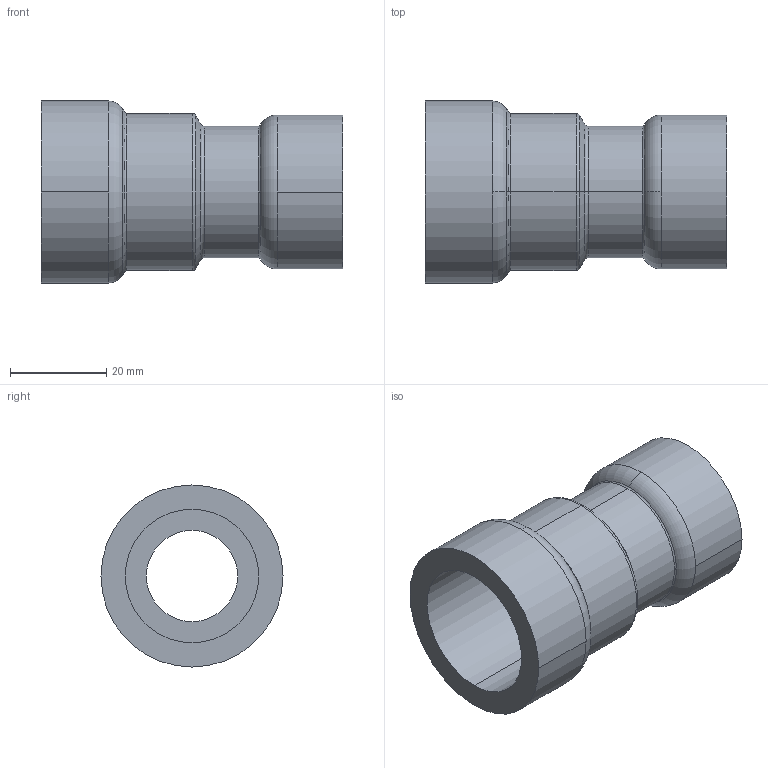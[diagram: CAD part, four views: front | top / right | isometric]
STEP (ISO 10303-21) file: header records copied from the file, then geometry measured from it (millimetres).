
FILE_DESCRIPTION(('Creo Elements/Direct Modeling STEP Export'),'2;1');
FILE_NAME('C9439_3-4_1-2.stp','2020-07-20T 9:57:24',(''),(''),'PTC Creo Elements/Direct Modeling STEP processor for AP214 (Solid Model)','PTC Creo Elements/Direct Modeling 19.0C 15-Aug-2015 (C) Parametric Technology GmbH','');
FILE_SCHEMA(('AUTOMOTIVE_DESIGN { 1 0 10303 214 1 1 1 1 }'));
Length unit declared in the file: millimetre
Products named in the file (2): C9439_3-4_1-2
Assembly tree (1 placements, depth 2):
  C9439_3-4_1-2
    C9439_3-4_1-2
Bounding box: 62.79 x 37.9 x 37.9 mm (x, y, z)
Volume: 22307.5 mm3; surface area: 13071.9 mm2
Topology: 1 solids, 1 shells, 34 faces, 76 edges, 46 vertices
Faces by surface type: cylinder 14, torus 12, plane 4, cone 4
Entity records: 880 total; most frequent: DIRECTION 152, ORIENTED_EDGE 152, CARTESIAN_POINT 131, EDGE_CURVE 76, AXIS2_PLACEMENT_3D 67, VERTEX_POINT 46, EDGE_LOOP 38, FACE_OUTER_BOUND 34
